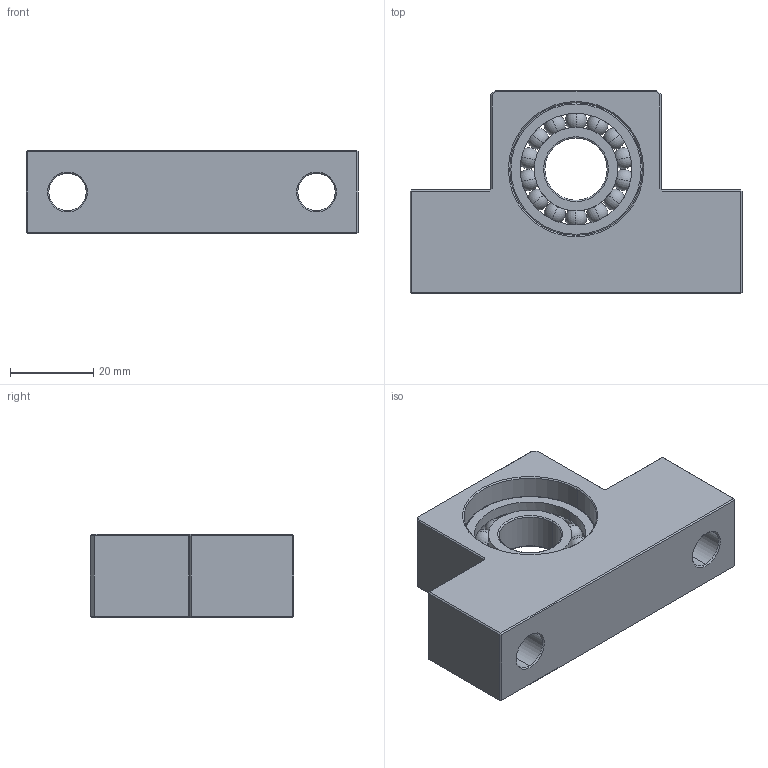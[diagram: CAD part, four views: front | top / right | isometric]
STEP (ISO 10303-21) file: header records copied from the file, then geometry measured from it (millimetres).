
FILE_DESCRIPTION (( 'STEP AP214' ), '1' );
FILE_NAME ('2.4012 Kuularuuvin tukilaakeri EF15.STEP', '2024-05-07T06:45:20', ( '' ), ( '' ), 'SwSTEP 2.0', 'SolidWorks 2024', '' );
FILE_SCHEMA (( 'AUTOMOTIVE_DESIGN' ));
Length unit declared in the file: millimetre
Products named in the file (1): 2.4012 Kuularuuvin tukilaakeri EF15
Bounding box: 80 x 49 x 20 mm (x, y, z)
Volume: 44394.4 mm3; surface area: 16914.9 mm2
Topology: 2 solids, 2 shells, 193 faces, 636 edges, 365 vertices
Faces by surface type: sphere 56, plane 54, torus 53, cylinder 18, cone 12
Entity records: 8712 total; most frequent: CARTESIAN_POINT 3155, ORIENTED_EDGE 1104, DIRECTION 910, EDGE_CURVE 552, AXIS2_PLACEMENT_3D 388, VERTEX_POINT 337, B_SPLINE_CURVE_WITH_KNOTS 224, EDGE_LOOP 203
